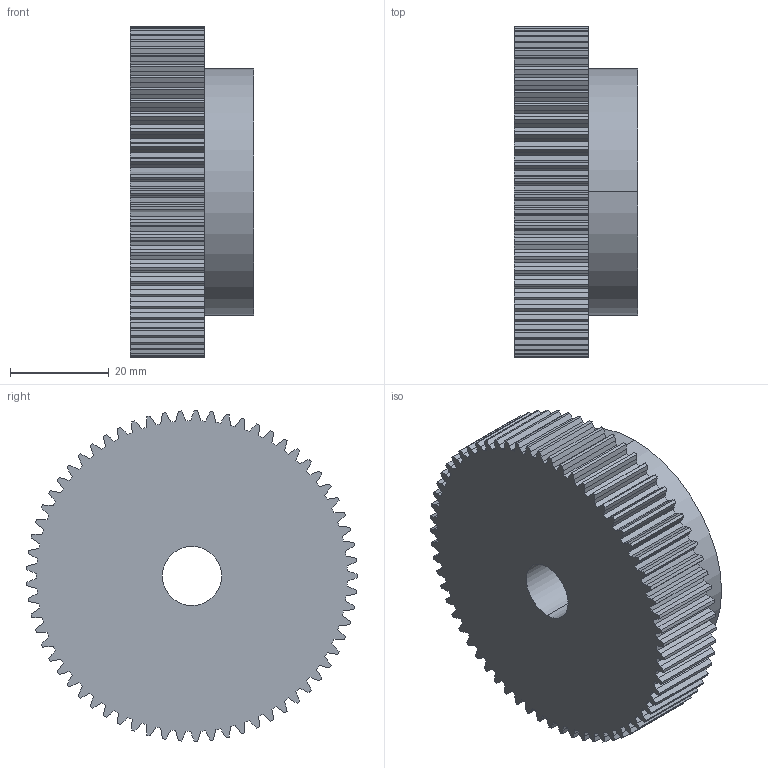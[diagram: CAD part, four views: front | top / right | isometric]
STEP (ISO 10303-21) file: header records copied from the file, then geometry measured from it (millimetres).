
FILE_DESCRIPTION (( 'STEP AP203' ), '1' );
FILE_NAME ('PM 26065.STEP', '2013-09-23T13:41:44', ( '' ), ( '' ), 'SwSTEP 2.0', 'SolidWorks 2010', '' );
FILE_SCHEMA (( 'CONFIG_CONTROL_DESIGN' ));
Length unit declared in the file: millimetre
Products named in the file (1): PM 26065
Bounding box: 25 x 66.98 x 66.99 mm (x, y, z)
Volume: 66249.2 mm3; surface area: 14667.5 mm2
Topology: 1 solids, 1 shells, 397 faces, 1182 edges, 788 vertices
Faces by surface type: plane 263, cylinder 134
Entity records: 13387 total; most frequent: CARTESIAN_POINT 2374, ORIENTED_EDGE 2364, DIRECTION 2244, EDGE_CURVE 1182, VECTOR 912, LINE 912, VERTEX_POINT 788, AXIS2_PLACEMENT_3D 666
